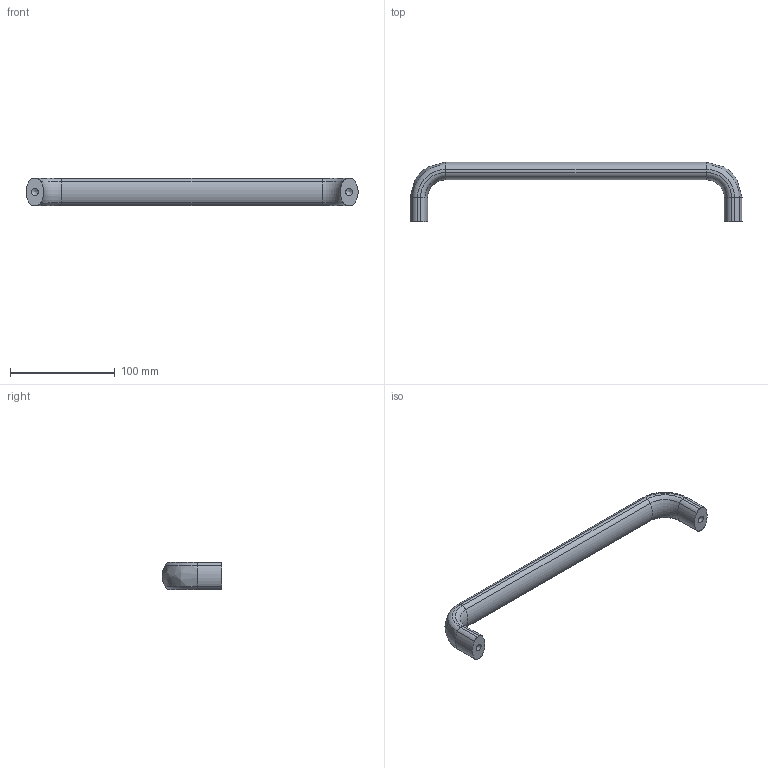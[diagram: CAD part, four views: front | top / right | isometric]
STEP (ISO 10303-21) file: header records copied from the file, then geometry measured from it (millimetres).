
FILE_DESCRIPTION( ( 'STEP AP203' ), '1' );
FILE_NAME( 'C:/Temp/Ganter_Step_05_03_2020/data/1_2/gn_565/Cabinet ''''U'''' handle GN 565-26-300-WSA.stp', '2020-03-05T10:09:12', ( 'License CC BY-ND 4.0' ), ( 'CADENAS' ), ' ', 'PARTsolutions', ' ' );
FILE_SCHEMA( ( 'CONFIG_CONTROL_DESIGN' ) );
Length unit declared in the file: millimetre
Products named in the file (1): _Cabinet ''U'' handle GN 565-26-300-WSA
Bounding box: 316.88 x 56.99 x 25.99 mm (x, y, z)
Volume: 132778.5 mm3; surface area: 27366.2 mm2
Topology: 1 solids, 1 shells, 52 faces, 130 edges, 80 vertices
Faces by surface type: cylinder 26, torus 14, plane 8, cone 2, bspline 2
Full cylindrical faces by diameter (mm): 6.647 x2
Entity records: 1648 total; most frequent: CARTESIAN_POINT 341, DIRECTION 302, ORIENTED_EDGE 248, AXIS2_PLACEMENT_3D 139, EDGE_CURVE 124, CIRCLE 88, VERTEX_POINT 80, EDGE_LOOP 56
